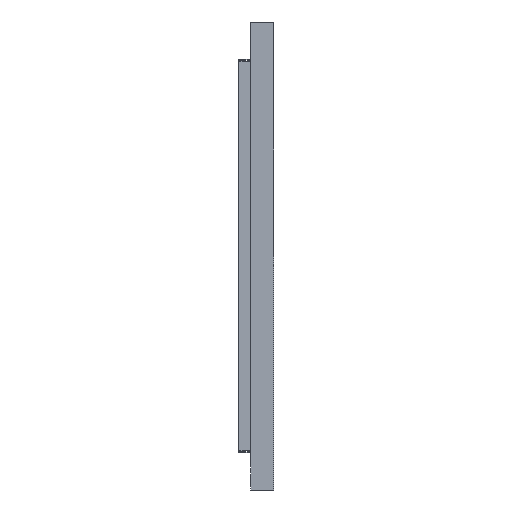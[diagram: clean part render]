
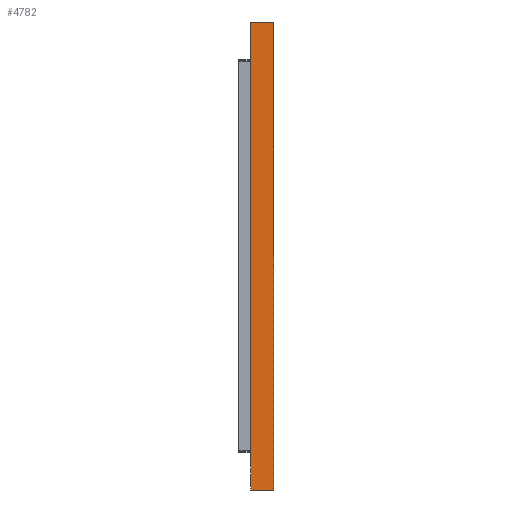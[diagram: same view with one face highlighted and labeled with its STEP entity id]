
A CAD part, left-side view. The second image highlights one B-rep face of the part: STEP entity #4782.
In plain terms, the highlighted planar face has unit normal (-1, 0, 0).
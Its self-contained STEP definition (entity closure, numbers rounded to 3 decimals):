
#47 = DIRECTION ( 'NONE',  ( 0., 0., -1. ) ) ;
#71 = VECTOR ( 'NONE', #3207, 1000. ) ;
#205 = CARTESIAN_POINT ( 'NONE',  ( 159.833, 261.697, 119.139 ) ) ;
#354 = FACE_OUTER_BOUND ( 'NONE', #4666, .T. ) ;
#363 = CARTESIAN_POINT ( 'NONE',  ( 159.833, 261.697, 299.139 ) ) ;
#601 = VERTEX_POINT ( 'NONE', #4796 ) ;
#612 = VECTOR ( 'NONE', #2615, 1000. ) ;
#790 = CARTESIAN_POINT ( 'NONE',  ( 159.833, 252.697, 299.139 ) ) ;
#1306 = CARTESIAN_POINT ( 'NONE',  ( 159.833, 252.697, 299.139 ) ) ;
#1606 = CARTESIAN_POINT ( 'NONE',  ( 159.833, 261.697, 299.139 ) ) ;
#1673 = VECTOR ( 'NONE', #1845, 1000. ) ;
#1722 = AXIS2_PLACEMENT_3D ( 'NONE', #4259, #3427, #47 ) ;
#1845 = DIRECTION ( 'NONE',  ( 0., 0., 1. ) ) ;
#1909 = PLANE ( 'NONE',  #1722 ) ;
#2007 = LINE ( 'NONE', #4281, #2753 ) ;
#2615 = DIRECTION ( 'NONE',  ( 0., -1., 0. ) ) ;
#2753 = VECTOR ( 'NONE', #2812, 1000. ) ;
#2756 = EDGE_CURVE ( 'NONE', #601, #3077, #3182, .T. ) ;
#2812 = DIRECTION ( 'NONE',  ( 0., -1., 0. ) ) ;
#3077 = VERTEX_POINT ( 'NONE', #790 ) ;
#3131 = ORIENTED_EDGE ( 'NONE', *, *, #4721, .F. ) ;
#3182 = LINE ( 'NONE', #1306, #71 ) ;
#3207 = DIRECTION ( 'NONE',  ( 0., 0., 1. ) ) ;
#3312 = ORIENTED_EDGE ( 'NONE', *, *, #4188, .T. ) ;
#3363 = CARTESIAN_POINT ( 'NONE',  ( 159.833, 261.697, 299.139 ) ) ;
#3383 = LINE ( 'NONE', #3363, #612 ) ;
#3427 = DIRECTION ( 'NONE',  ( 1., 0., 0. ) ) ;
#3670 = LINE ( 'NONE', #363, #1673 ) ;
#3783 = EDGE_CURVE ( 'NONE', #3920, #4412, #3670, .T. ) ;
#3920 = VERTEX_POINT ( 'NONE', #205 ) ;
#4188 = EDGE_CURVE ( 'NONE', #3920, #601, #2007, .T. ) ;
#4259 = CARTESIAN_POINT ( 'NONE',  ( 159.833, 261.697, 299.139 ) ) ;
#4281 = CARTESIAN_POINT ( 'NONE',  ( 159.833, 261.697, 119.139 ) ) ;
#4343 = ORIENTED_EDGE ( 'NONE', *, *, #2756, .T. ) ;
#4412 = VERTEX_POINT ( 'NONE', #1606 ) ;
#4575 = ORIENTED_EDGE ( 'NONE', *, *, #3783, .F. ) ;
#4666 = EDGE_LOOP ( 'NONE', ( #4343, #3131, #4575, #3312 ) ) ;
#4721 = EDGE_CURVE ( 'NONE', #4412, #3077, #3383, .T. ) ;
#4782 = ADVANCED_FACE ( 'NONE', ( #354 ), #1909, .F. ) ;
#4796 = CARTESIAN_POINT ( 'NONE',  ( 159.833, 252.697, 119.139 ) ) ;
